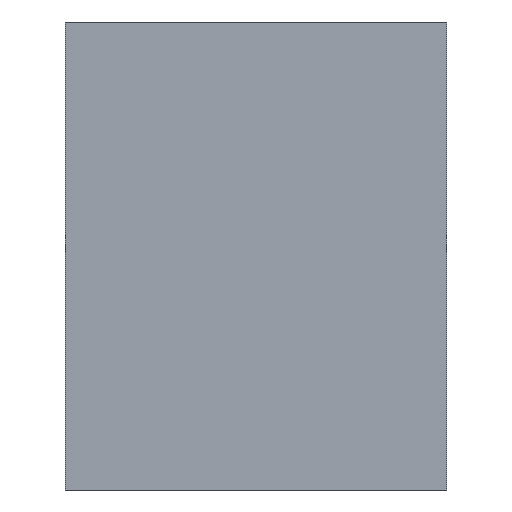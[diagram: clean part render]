
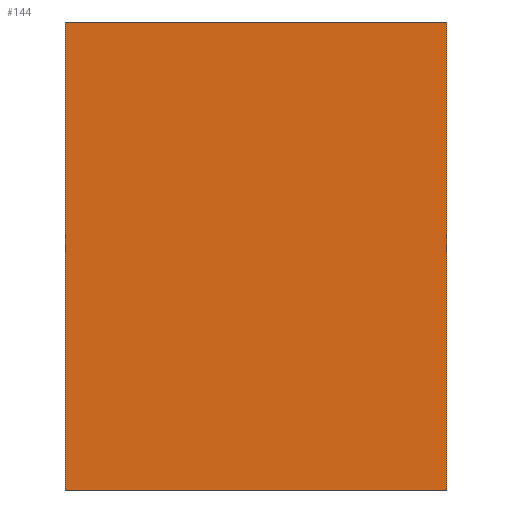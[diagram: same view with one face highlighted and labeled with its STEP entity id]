
A CAD part, front view. The second image highlights one B-rep face of the part: STEP entity #144.
In plain terms, the highlighted planar face has unit normal (0, -1, 0).
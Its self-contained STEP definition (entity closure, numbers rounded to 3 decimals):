
#20 = ORIENTED_EDGE ( 'NONE', *, *, #210, .F. ) ;
#31 = VERTEX_POINT ( 'NONE', #194 ) ;
#33 = VECTOR ( 'NONE', #109, 1000. ) ;
#34 = VECTOR ( 'NONE', #180, 1000. ) ;
#35 = ORIENTED_EDGE ( 'NONE', *, *, #213, .F. ) ;
#40 = ORIENTED_EDGE ( 'NONE', *, *, #234, .F. ) ;
#49 = VECTOR ( 'NONE', #123, 1000. ) ;
#64 = LINE ( 'NONE', #145, #226 ) ;
#91 = LINE ( 'NONE', #212, #34 ) ;
#92 = CARTESIAN_POINT ( 'NONE',  ( 0., 0., 0. ) ) ;
#96 = PLANE ( 'NONE',  #192 ) ;
#104 = CARTESIAN_POINT ( 'NONE',  ( 79., 0., -97. ) ) ;
#106 = VERTEX_POINT ( 'NONE', #113 ) ;
#109 = DIRECTION ( 'NONE',  ( 0., 0., -1. ) ) ;
#110 = DIRECTION ( 'NONE',  ( -1., 0., 0. ) ) ;
#112 = LINE ( 'NONE', #104, #33 ) ;
#113 = CARTESIAN_POINT ( 'NONE',  ( -79., 0., -97. ) ) ;
#123 = DIRECTION ( 'NONE',  ( 0., 0., 1. ) ) ;
#140 = ORIENTED_EDGE ( 'NONE', *, *, #214, .F. ) ;
#144 = ADVANCED_FACE ( 'NONE', ( #204 ), #96, .F. ) ;
#145 = CARTESIAN_POINT ( 'NONE',  ( -79., 0., -97. ) ) ;
#163 = VERTEX_POINT ( 'NONE', #166 ) ;
#164 = LINE ( 'NONE', #201, #49 ) ;
#166 = CARTESIAN_POINT ( 'NONE',  ( -79., 0., 97. ) ) ;
#170 = DIRECTION ( 'NONE',  ( 0., 1., 0. ) ) ;
#171 = DIRECTION ( 'NONE',  ( 0., 0., 1. ) ) ;
#173 = VERTEX_POINT ( 'NONE', #199 ) ;
#180 = DIRECTION ( 'NONE',  ( 1., 0., 0. ) ) ;
#187 = EDGE_LOOP ( 'NONE', ( #40, #20, #35, #140 ) ) ;
#192 = AXIS2_PLACEMENT_3D ( 'NONE', #92, #170, #171 ) ;
#194 = CARTESIAN_POINT ( 'NONE',  ( 79., 0., 97. ) ) ;
#199 = CARTESIAN_POINT ( 'NONE',  ( 79., 0., -97. ) ) ;
#201 = CARTESIAN_POINT ( 'NONE',  ( -79., 0., -97. ) ) ;
#204 = FACE_OUTER_BOUND ( 'NONE', #187, .T. ) ;
#210 = EDGE_CURVE ( 'NONE', #163, #31, #91, .T. ) ;
#212 = CARTESIAN_POINT ( 'NONE',  ( -79., 0., 97. ) ) ;
#213 = EDGE_CURVE ( 'NONE', #106, #163, #164, .T. ) ;
#214 = EDGE_CURVE ( 'NONE', #173, #106, #64, .T. ) ;
#226 = VECTOR ( 'NONE', #110, 1000. ) ;
#234 = EDGE_CURVE ( 'NONE', #31, #173, #112, .T. ) ;
